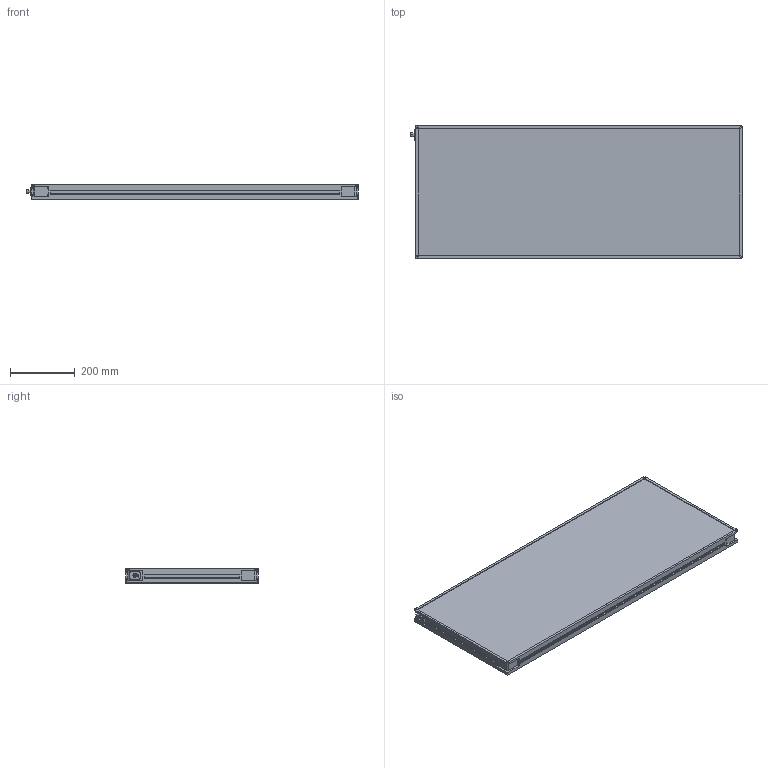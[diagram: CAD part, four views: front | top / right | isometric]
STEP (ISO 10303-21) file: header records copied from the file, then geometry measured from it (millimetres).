
FILE_DESCRIPTION (( 'STEP AP214' ), '1' );
FILE_NAME ('MBACK-xxxx-xxx-M1_CLIENT400x1000.STEP', '2022-03-31T16:04:20', ( '' ), ( '' ), 'SwSTEP 2.0', 'SolidWorks 2020', '' );
FILE_SCHEMA (( 'AUTOMOTIVE_DESIGN' ));
Length unit declared in the file: millimetre
Products named in the file (1): MBACK-xxxx-xxx-M1_CLIENT400x1000
Bounding box: 1025.9 x 408 x 45.5 mm (x, y, z)
Volume: 17085619.7 mm3; surface area: 1010503.6 mm2
Topology: 1 solids, 1 shells, 442 faces, 1144 edges, 760 vertices
Faces by surface type: plane 249, cylinder 105, bspline 80, cone 8
Entity records: 17236 total; most frequent: CARTESIAN_POINT 6699, ORIENTED_EDGE 2288, DIRECTION 1936, EDGE_CURVE 1144, VERTEX_POINT 760, LINE 758, VECTOR 758, AXIS2_PLACEMENT_3D 589
